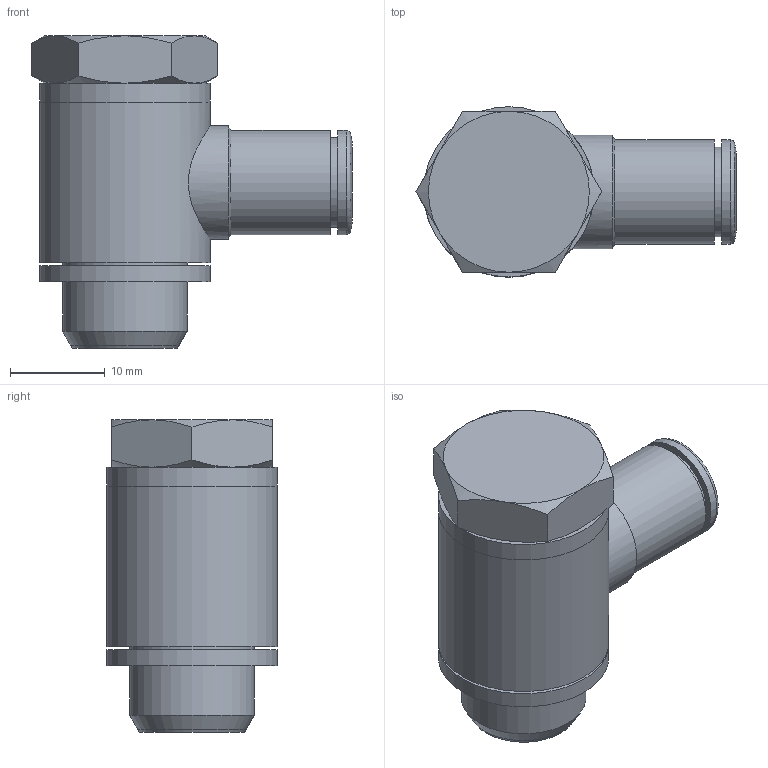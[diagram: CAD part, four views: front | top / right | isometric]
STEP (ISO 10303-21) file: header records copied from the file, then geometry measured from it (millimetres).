
FILE_DESCRIPTION(('Bauteilbeschreibung','HiCAD-Model','HiCAD-STEP-TRANSLATION','Bauteilbeschreibung'),'2;1');
FILE_NAME('B:/ABGLEICH/ZEICHNUNGEN/STEP FÜR INTERNET/STEP/IPSO 017/S11206_IPSO_017_6_1-4.STP','2011-09-29T16:53:35+00:00',('Konstrukteur'),('Konstrukteur Firma GmbH'),' HiCAD neXt 2008, Step 3.1.1401.2J ','HiCAD neXt 2008','confidential');
FILE_SCHEMA(('AUTOMOTIVE_DESIGN { 1 2 10303 214 0 1 1 1 }'));
Length unit declared in the file: millimetre
Products named in the file (8): S11206_IPSO_017_6_1_4; A00033; A4403; A44030; G 1_4; A00043_DTG__1_4_UNV ; DR6_1_NEU; R201206_N
Assembly tree (7 placements, depth 3):
  S11206_IPSO_017_6_1_4
    A00033
    A4403
    A44030
      G 1_4
    A00043_DTG__1_4_UNV 
    DR6_1_NEU
    R201206_N
Bounding box: 33.81 x 18 x 33 mm (x, y, z)
Volume: 6413.6 mm3; surface area: 7431.2 mm2
Topology: 6 solids, 6 shells, 99 faces, 217 edges, 135 vertices
Faces by surface type: cone 34, plane 32, cylinder 32, torus 1
Full cylindrical faces by diameter (mm): 5 x3, 6.1 x1, 6.2 x1, 6.8 x1, 8.3 x1, 9 x1, 9.5 x1, 9.6 x1, 11 x3, 11.445 x2, 12 x1, 12.8 x1, 13.157 x1, 13.3 x2, 13.4 x1, 13.5 x1, 14 x1, 18 x3
Entity records: 6341 total; most frequent: CARTESIAN_POINT 3586, DIRECTION 432, ORIENTED_EDGE 292, AXIS2_PLACEMENT_3D 207, EDGE_LOOP 172, EDGE_CURVE 146, COLOUR_RGB 142, PRESENTATION_STYLE_ASSIGNMENT 142
